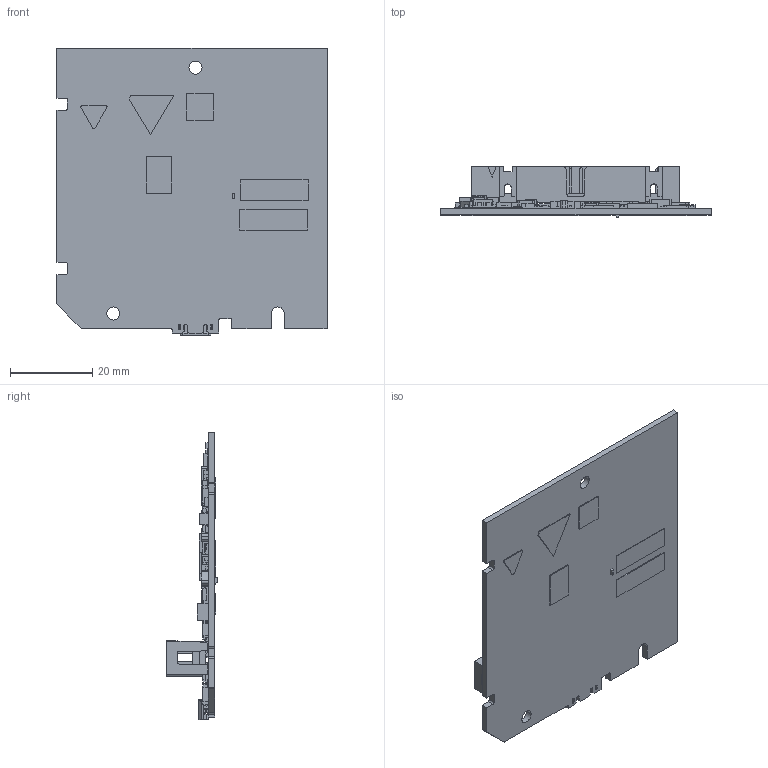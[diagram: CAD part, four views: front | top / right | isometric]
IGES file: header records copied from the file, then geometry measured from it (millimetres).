
Start section:  PTC IGES file: cu_usb-6000-oem.igs
Global section: file name: cu_usb-6000-oem.igs; native system: Creo Parametric by Parametric Technology Corporation; preprocessor: 2015280; author: dkendric; organization: Unknown; date: 20160225.101855; units: inch
Bounding box: 65.72 x 12.37 x 70.04 mm (x, y, z)
Surface area: 13955.8 mm2 (no closed solid volume)
Topology: 0 solids, 0 shells, 2109 faces, 11254 edges, 11254 vertices
Faces by surface type: bspline 1864, revolution 225, extrusion 20
